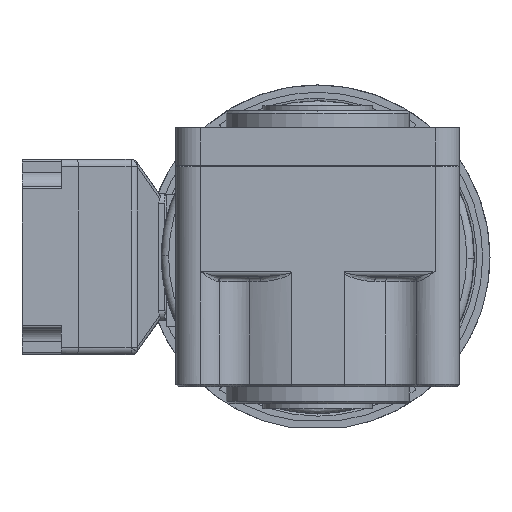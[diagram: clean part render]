
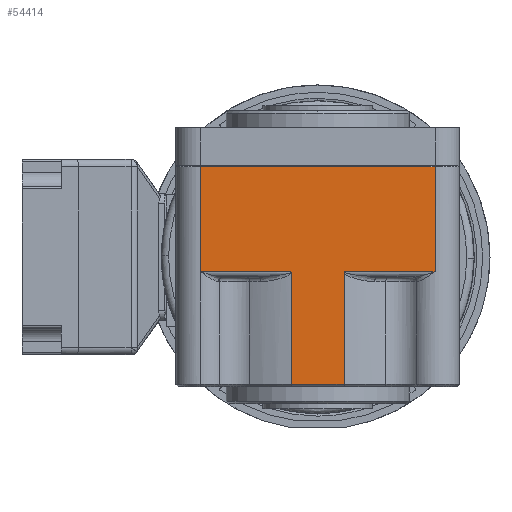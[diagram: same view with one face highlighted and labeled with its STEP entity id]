
A CAD part, front view. The second image highlights one B-rep face of the part: STEP entity #54414.
In plain terms, the highlighted planar face has unit normal (0, -1, 0).
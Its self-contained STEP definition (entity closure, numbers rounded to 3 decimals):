
#693 = VERTEX_POINT ( 'NONE', #44883 ) ;
#770 = LINE ( 'NONE', #30861, #16490 ) ;
#1053 = EDGE_CURVE ( 'NONE', #11632, #60324, #64680, .T. ) ;
#1279 = DIRECTION ( 'NONE',  ( 0., 0., 1. ) ) ;
#2663 = B_SPLINE_CURVE_WITH_KNOTS ( 'NONE', 3,
 ( #39356, #43984, #13921, #45542 ),
 .UNSPECIFIED., .F., .F.,
 ( 4, 4 ),
 ( 0., 1. ),
 .UNSPECIFIED. ) ;
#3943 = EDGE_CURVE ( 'NONE', #37091, #26098, #22775, .T. ) ;
#4432 = CARTESIAN_POINT ( 'NONE',  ( 15.896, -252.888, 37. ) ) ;
#4750 = LINE ( 'NONE', #4432, #13545 ) ;
#4846 = DIRECTION ( 'NONE',  ( 1., 0., 0. ) ) ;
#5067 = ORIENTED_EDGE ( 'NONE', *, *, #28162, .T. ) ;
#6190 = VECTOR ( 'NONE', #4846, 1000. ) ;
#6415 = VERTEX_POINT ( 'NONE', #50796 ) ;
#7748 = VECTOR ( 'NONE', #1279, 1000. ) ;
#7908 = CARTESIAN_POINT ( 'NONE',  ( -80.104, -252.888, -6. ) ) ;
#8133 = EDGE_CURVE ( 'NONE', #37397, #27819, #770, .T. ) ;
#9112 = EDGE_LOOP ( 'NONE', ( #55460, #63548, #43727, #41288, #5067, #57162, #43635, #54048, #29098, #39824 ) ) ;
#11632 = VERTEX_POINT ( 'NONE', #43536 ) ;
#11719 = VECTOR ( 'NONE', #61898, 1000. ) ;
#13020 = DIRECTION ( 'NONE',  ( 0., 0., -1. ) ) ;
#13545 = VECTOR ( 'NONE', #24903, 1000. ) ;
#13707 = VECTOR ( 'NONE', #13020, 1000. ) ;
#13921 = CARTESIAN_POINT ( 'NONE',  ( -21.224, -252.888, -6.121 ) ) ;
#14696 = EDGE_CURVE ( 'NONE', #6415, #693, #58297, .T. ) ;
#14741 = VERTEX_POINT ( 'NONE', #18952 ) ;
#16490 = VECTOR ( 'NONE', #56323, 1000. ) ;
#17508 = CARTESIAN_POINT ( 'NONE',  ( -80.104, -252.888, 37. ) ) ;
#18910 = B_SPLINE_CURVE_WITH_KNOTS ( 'NONE', 3,
 ( #48401, #43109, #63301, #38155, #43431, #63620 ),
 .UNSPECIFIED., .F., .F.,
 ( 4, 1, 1, 4 ),
 ( 0., 0.333, 0.667, 1. ),
 .UNSPECIFIED. ) ;
#18952 = CARTESIAN_POINT ( 'NONE',  ( 15.896, -252.888, -6. ) ) ;
#19392 = VECTOR ( 'NONE', #52544, 1000. ) ;
#21773 = EDGE_CURVE ( 'NONE', #30666, #14741, #46341, .T. ) ;
#22418 = CARTESIAN_POINT ( 'NONE',  ( -80.104, -252.888, -6. ) ) ;
#22775 = LINE ( 'NONE', #7908, #19392 ) ;
#24903 = DIRECTION ( 'NONE',  ( 0., 0., -1. ) ) ;
#24922 = CARTESIAN_POINT ( 'NONE',  ( -90.104, -252.888, -53. ) ) ;
#26098 = VERTEX_POINT ( 'NONE', #42766 ) ;
#27378 = LINE ( 'NONE', #22418, #7748 ) ;
#27819 = VERTEX_POINT ( 'NONE', #17508 ) ;
#28162 = EDGE_CURVE ( 'NONE', #26098, #6415, #18910, .T. ) ;
#28297 = EDGE_CURVE ( 'NONE', #37397, #14741, #4750, .T. ) ;
#28922 = CARTESIAN_POINT ( 'NONE',  ( -80.104, -252.888, -6. ) ) ;
#29098 = ORIENTED_EDGE ( 'NONE', *, *, #32960, .T. ) ;
#29233 = PLANE ( 'NONE',  #54124 ) ;
#29562 = FACE_OUTER_BOUND ( 'NONE', #9112, .T. ) ;
#29992 = EDGE_CURVE ( 'NONE', #693, #11632, #30614, .T. ) ;
#30614 = LINE ( 'NONE', #50786, #6190 ) ;
#30666 = VERTEX_POINT ( 'NONE', #38659 ) ;
#30861 = CARTESIAN_POINT ( 'NONE',  ( 15.896, -252.888, 37. ) ) ;
#32670 = VECTOR ( 'NONE', #43825, 1000. ) ;
#32960 = EDGE_CURVE ( 'NONE', #60324, #30666, #2663, .T. ) ;
#37091 = VERTEX_POINT ( 'NONE', #28922 ) ;
#37397 = VERTEX_POINT ( 'NONE', #42737 ) ;
#38155 = CARTESIAN_POINT ( 'NONE',  ( -42.935, -252.888, -6.31 ) ) ;
#38659 = CARTESIAN_POINT ( 'NONE',  ( -21.104, -252.888, -6. ) ) ;
#39356 = CARTESIAN_POINT ( 'NONE',  ( -21.288, -252.888, -6.52 ) ) ;
#39824 = ORIENTED_EDGE ( 'NONE', *, *, #21773, .T. ) ;
#41288 = ORIENTED_EDGE ( 'NONE', *, *, #3943, .T. ) ;
#41693 = CARTESIAN_POINT ( 'NONE',  ( -21.104, -252.888, -6. ) ) ;
#42737 = CARTESIAN_POINT ( 'NONE',  ( 15.896, -252.888, 37. ) ) ;
#42758 = CARTESIAN_POINT ( 'NONE',  ( -42.921, -252.888, -6.52 ) ) ;
#42766 = CARTESIAN_POINT ( 'NONE',  ( -43.104, -252.888, -6. ) ) ;
#43109 = CARTESIAN_POINT ( 'NONE',  ( -43.064, -252.888, -6.04 ) ) ;
#43431 = CARTESIAN_POINT ( 'NONE',  ( -42.921, -252.888, -6.446 ) ) ;
#43536 = CARTESIAN_POINT ( 'NONE',  ( -21.288, -252.888, -52. ) ) ;
#43635 = ORIENTED_EDGE ( 'NONE', *, *, #29992, .T. ) ;
#43727 = ORIENTED_EDGE ( 'NONE', *, *, #54982, .F. ) ;
#43825 = DIRECTION ( 'NONE',  ( 0., 0., 1. ) ) ;
#43984 = CARTESIAN_POINT ( 'NONE',  ( -21.288, -252.888, -6.304 ) ) ;
#44814 = CARTESIAN_POINT ( 'NONE',  ( -21.288, -252.888, -52. ) ) ;
#44883 = CARTESIAN_POINT ( 'NONE',  ( -42.921, -252.888, -52. ) ) ;
#45542 = CARTESIAN_POINT ( 'NONE',  ( -21.104, -252.888, -6. ) ) ;
#46341 = LINE ( 'NONE', #41693, #11719 ) ;
#48401 = CARTESIAN_POINT ( 'NONE',  ( -43.104, -252.888, -6. ) ) ;
#49392 = DIRECTION ( 'NONE',  ( 0., 0., -1. ) ) ;
#50786 = CARTESIAN_POINT ( 'NONE',  ( -42.921, -252.888, -52. ) ) ;
#50796 = CARTESIAN_POINT ( 'NONE',  ( -42.921, -252.888, -6.52 ) ) ;
#52544 = DIRECTION ( 'NONE',  ( 1., 0., 0. ) ) ;
#54048 = ORIENTED_EDGE ( 'NONE', *, *, #1053, .T. ) ;
#54124 = AXIS2_PLACEMENT_3D ( 'NONE', #24922, #55021, #49392 ) ;
#54347 = CARTESIAN_POINT ( 'NONE',  ( -21.288, -252.888, -6.52 ) ) ;
#54414 = ADVANCED_FACE ( 'NONE', ( #29562 ), #29233, .T. ) ;
#54982 = EDGE_CURVE ( 'NONE', #37091, #27819, #27378, .T. ) ;
#55021 = DIRECTION ( 'NONE',  ( 0., -1., 0. ) ) ;
#55460 = ORIENTED_EDGE ( 'NONE', *, *, #28297, .F. ) ;
#56323 = DIRECTION ( 'NONE',  ( -1., 0., 0. ) ) ;
#57162 = ORIENTED_EDGE ( 'NONE', *, *, #14696, .T. ) ;
#58297 = LINE ( 'NONE', #42758, #13707 ) ;
#60324 = VERTEX_POINT ( 'NONE', #54347 ) ;
#61898 = DIRECTION ( 'NONE',  ( 1., 0., 0. ) ) ;
#63301 = CARTESIAN_POINT ( 'NONE',  ( -42.997, -252.888, -6.133 ) ) ;
#63548 = ORIENTED_EDGE ( 'NONE', *, *, #8133, .T. ) ;
#63620 = CARTESIAN_POINT ( 'NONE',  ( -42.921, -252.888, -6.52 ) ) ;
#64680 = LINE ( 'NONE', #44814, #32670 ) ;
